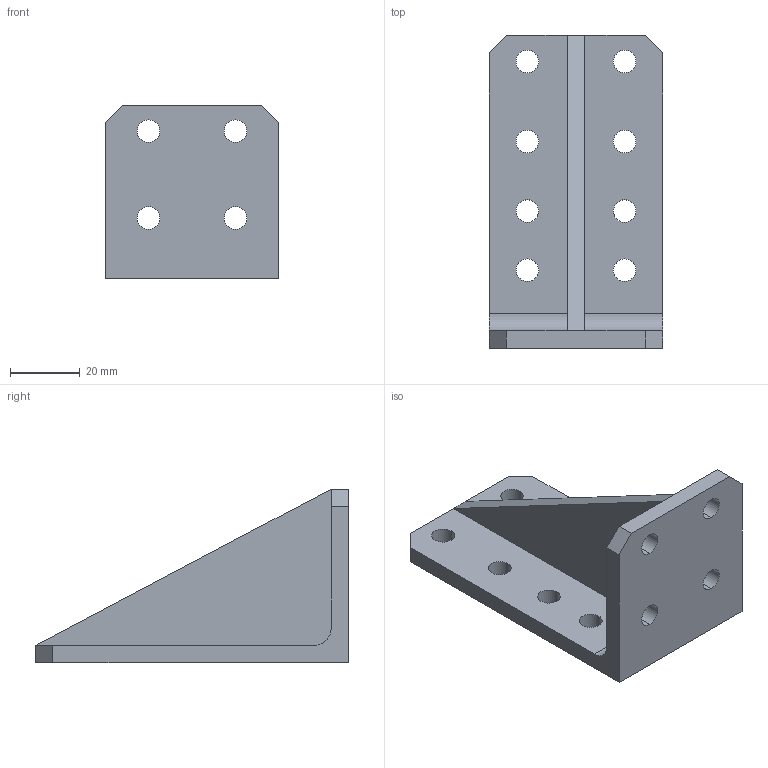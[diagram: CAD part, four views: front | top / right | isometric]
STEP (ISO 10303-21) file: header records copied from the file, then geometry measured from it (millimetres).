
FILE_DESCRIPTION (( 'STEP AP214' ), '1' );
FILE_NAME ('131039.STEP', '2021-10-21T07:29:15', ( '' ), ( '' ), 'SwSTEP 2.0', 'SolidWorks 2018', '' );
FILE_SCHEMA (( 'AUTOMOTIVE_DESIGN' ));
Length unit declared in the file: millimetre
Products named in the file (1): 131039
Bounding box: 50 x 90 x 50 mm (x, y, z)
Volume: 41312.9 mm3; surface area: 19179.6 mm2
Topology: 1 solids, 1 shells, 43 faces, 119 edges, 78 vertices
Faces by surface type: cylinder 26, plane 17
Entity records: 1475 total; most frequent: DIRECTION 259, CARTESIAN_POINT 241, ORIENTED_EDGE 238, EDGE_CURVE 119, AXIS2_PLACEMENT_3D 96, VERTEX_POINT 78, EDGE_LOOP 67, LINE 67
